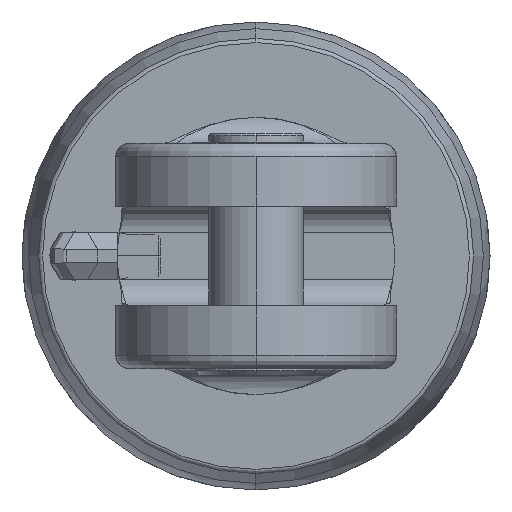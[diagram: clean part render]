
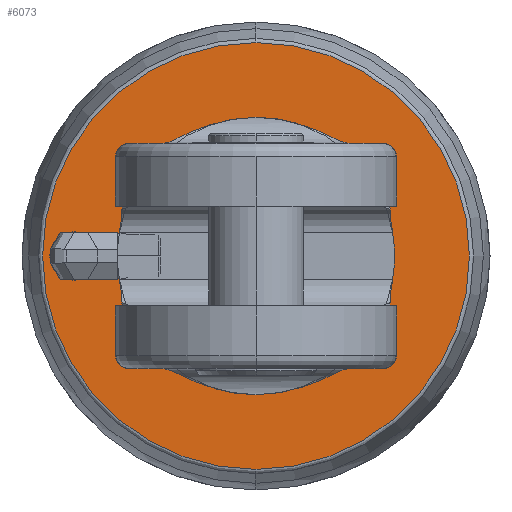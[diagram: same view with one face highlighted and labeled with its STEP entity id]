
A CAD part, left-side view. The second image highlights one B-rep face of the part: STEP entity #6073.
In plain terms, the highlighted planar face has unit normal (-1, 0, 0).
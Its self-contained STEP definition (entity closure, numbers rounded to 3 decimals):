
#213 = ORIENTED_EDGE ( 'NONE', *, *, #4155, .T. ) ;
#472 = DIRECTION ( 'NONE',  ( -1., 0., 0. ) ) ;
#650 = CIRCLE ( 'NONE', #3322, 49.246 ) ;
#715 = DIRECTION ( 'NONE',  ( -1., 0., 0. ) ) ;
#867 = CARTESIAN_POINT ( 'NONE',  ( 0., 0., 49.246 ) ) ;
#2087 = DIRECTION ( 'NONE',  ( -1., 0., 0. ) ) ;
#2563 = AXIS2_PLACEMENT_3D ( 'NONE', #4055, #715, #4650 ) ;
#3322 = AXIS2_PLACEMENT_3D ( 'NONE', #5493, #2087, #6047 ) ;
#3805 = EDGE_LOOP ( 'NONE', ( #213, #4115 ) ) ;
#3829 = CARTESIAN_POINT ( 'NONE',  ( 0., 42., 0. ) ) ;
#3904 = VERTEX_POINT ( 'NONE', #4474 ) ;
#4055 = CARTESIAN_POINT ( 'NONE',  ( 0., 0., 0. ) ) ;
#4115 = ORIENTED_EDGE ( 'NONE', *, *, #5988, .T. ) ;
#4155 = EDGE_CURVE ( 'NONE', #4334, #3904, #5589, .T. ) ;
#4194 = AXIS2_PLACEMENT_3D ( 'NONE', #3829, #472, #4409 ) ;
#4334 = VERTEX_POINT ( 'NONE', #867 ) ;
#4409 = DIRECTION ( 'NONE',  ( 0., 0., 1. ) ) ;
#4474 = CARTESIAN_POINT ( 'NONE',  ( 0., 0., -49.246 ) ) ;
#4650 = DIRECTION ( 'NONE',  ( 0., 0., 1. ) ) ;
#5493 = CARTESIAN_POINT ( 'NONE',  ( 0., 0., 0. ) ) ;
#5589 = CIRCLE ( 'NONE', #2563, 49.246 ) ;
#5988 = EDGE_CURVE ( 'NONE', #3904, #4334, #650, .T. ) ;
#6047 = DIRECTION ( 'NONE',  ( 0., 0., 1. ) ) ;
#6073 = ADVANCED_FACE ( 'NONE', ( #6474 ), #7241, .T. ) ;
#6474 = FACE_OUTER_BOUND ( 'NONE', #3805, .T. ) ;
#7241 = PLANE ( 'NONE',  #4194 ) ;
